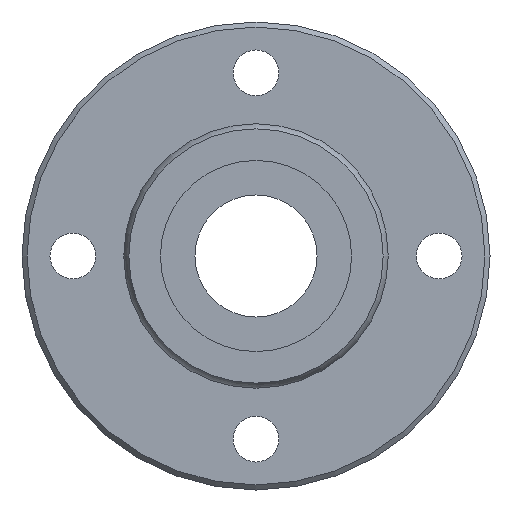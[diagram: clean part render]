
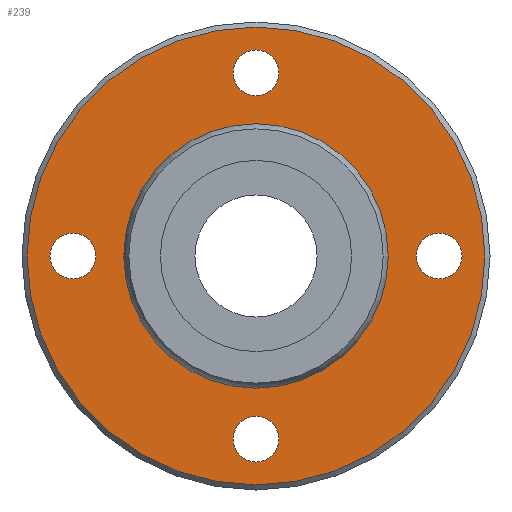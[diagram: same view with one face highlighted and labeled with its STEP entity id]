
A CAD part, left-side view. The second image highlights one B-rep face of the part: STEP entity #239.
In plain terms, the highlighted planar face has unit normal (-1, 0, 0).
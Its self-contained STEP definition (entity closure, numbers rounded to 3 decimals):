
#164=CARTESIAN_POINT('',(28.,0.,22.5));
#165=VERTEX_POINT('',#164);
#166=CARTESIAN_POINT('',(28.,0.0,0.0));
#167=DIRECTION('',(1.0,0.0,0.0));
#168=DIRECTION('',(0.0,0.0,-1.0));
#169=AXIS2_PLACEMENT_3D('',#166,#167,#168);
#170=CIRCLE('',#169,22.5);
#171=EDGE_CURVE('',#165,#165,#170,.T.);
#176=CARTESIAN_POINT('',(28.,0.0,17.887));
#177=DIRECTION('',(-1.0,0.0,0.0));
#178=DIRECTION('',(0.0,0.0,1.0));
#179=AXIS2_PLACEMENT_3D('',#176,#177,#178);
#180=PLANE('',#179);
#181=ORIENTED_EDGE('',*,*,#171,.F.);
#182=EDGE_LOOP('',(#181));
#183=FACE_OUTER_BOUND('',#182,.T.);
#184=CARTESIAN_POINT('',(28.,0.0,12.773));
#185=VERTEX_POINT('',#184);
#186=CARTESIAN_POINT('',(28.,0.0,0.0));
#187=DIRECTION('',(-1.0,0.0,0.0));
#188=DIRECTION('',(0.0,0.0,1.0));
#189=AXIS2_PLACEMENT_3D('',#186,#187,#188);
#190=CIRCLE('',#189,12.773);
#191=EDGE_CURVE('',#185,#185,#190,.T.);
#192=ORIENTED_EDGE('',*,*,#191,.F.);
#193=EDGE_LOOP('',(#192));
#194=FACE_BOUND('',#193,.T.);
#195=CARTESIAN_POINT('',(28.,-20.25,0.));
#196=VERTEX_POINT('',#195);
#197=CARTESIAN_POINT('',(28.,-18.0,0.));
#198=DIRECTION('',(1.0,0.0,0.0));
#199=DIRECTION('',(0.0,1.0,0.0));
#200=AXIS2_PLACEMENT_3D('',#197,#198,#199);
#201=CIRCLE('',#200,2.25);
#202=EDGE_CURVE('',#196,#196,#201,.T.);
#203=ORIENTED_EDGE('',*,*,#202,.T.);
#204=EDGE_LOOP('',(#203));
#205=FACE_BOUND('',#204,.T.);
#206=CARTESIAN_POINT('',(28.,15.75,0.));
#207=VERTEX_POINT('',#206);
#208=CARTESIAN_POINT('',(28.,18.0,0.));
#209=DIRECTION('',(1.0,0.0,0.0));
#210=DIRECTION('',(0.0,1.0,0.0));
#211=AXIS2_PLACEMENT_3D('',#208,#209,#210);
#212=CIRCLE('',#211,2.25);
#213=EDGE_CURVE('',#207,#207,#212,.T.);
#214=ORIENTED_EDGE('',*,*,#213,.T.);
#215=EDGE_LOOP('',(#214));
#216=FACE_BOUND('',#215,.T.);
#217=CARTESIAN_POINT('',(28.,-2.25,18.0));
#218=VERTEX_POINT('',#217);
#219=CARTESIAN_POINT('',(28.,0.,18.0));
#220=DIRECTION('',(1.0,0.0,0.0));
#221=DIRECTION('',(0.0,1.0,0.0));
#222=AXIS2_PLACEMENT_3D('',#219,#220,#221);
#223=CIRCLE('',#222,2.25);
#224=EDGE_CURVE('',#218,#218,#223,.T.);
#225=ORIENTED_EDGE('',*,*,#224,.T.);
#226=EDGE_LOOP('',(#225));
#227=FACE_BOUND('',#226,.T.);
#228=CARTESIAN_POINT('',(28.,-2.25,-18.0));
#229=VERTEX_POINT('',#228);
#230=CARTESIAN_POINT('',(28.,0.,-18.0));
#231=DIRECTION('',(1.0,0.0,0.0));
#232=DIRECTION('',(0.0,1.0,0.0));
#233=AXIS2_PLACEMENT_3D('',#230,#231,#232);
#234=CIRCLE('',#233,2.25);
#235=EDGE_CURVE('',#229,#229,#234,.T.);
#236=ORIENTED_EDGE('',*,*,#235,.T.);
#237=EDGE_LOOP('',(#236));
#238=FACE_BOUND('',#237,.T.);
#239=ADVANCED_FACE('',(#183,#194,#205,#216,#227,#238),#180,.T.);
